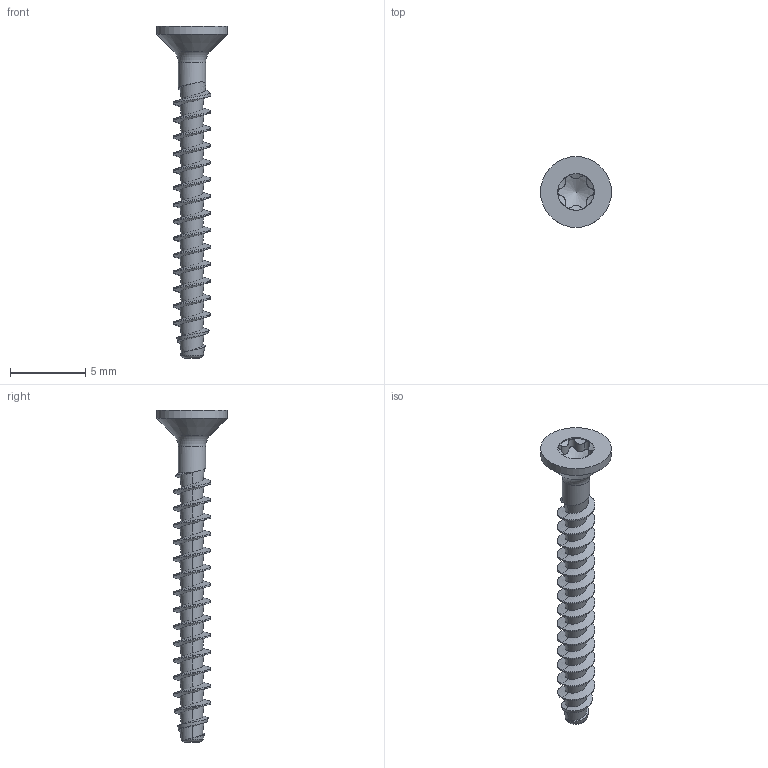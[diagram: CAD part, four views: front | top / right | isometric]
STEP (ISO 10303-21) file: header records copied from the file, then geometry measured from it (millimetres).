
FILE_DESCRIPTION(/* description */ (''),/* implementation_level */ '2;1');
FILE_NAME(/* name */ 'KN1041-STS-25x22-T8.step',/* time_stamp */ '2017-10-17T14:11:45+02:00',/* author */ (''),/* organization */ (''),/* preprocessor_version */ 'ST-DEVELOPER v16',/* originating_system */ 'SIEMENS PLM Software NX 10.0',/* authorisation */ '');
FILE_SCHEMA (('AUTOMOTIVE_DESIGN { 1 0 10303 214 3 1 1 1 }'));
Length unit declared in the file: millimetre
Products named in the file (1): KN1041-STS-25x22-T8
Bounding box: 4.7 x 4.7 x 22 mm (x, y, z)
Volume: 65.5 mm3; surface area: 232.1 mm2
Topology: 1 solids, 1 shells, 76 faces, 187 edges, 113 vertices
Faces by surface type: bspline 51, cylinder 16, cone 5, torus 2, plane 2
Full cylindrical faces by diameter (mm): 1.8 x1, 2.42 x1, 4.7 x1
Entity records: 5818 total; most frequent: CARTESIAN_POINT 4437, ORIENTED_EDGE 346, EDGE_CURVE 173, DIRECTION 134, VERTEX_POINT 108, B_SPLINE_CURVE_WITH_KNOTS 102, EDGE_LOOP 84, ADVANCED_FACE 76
